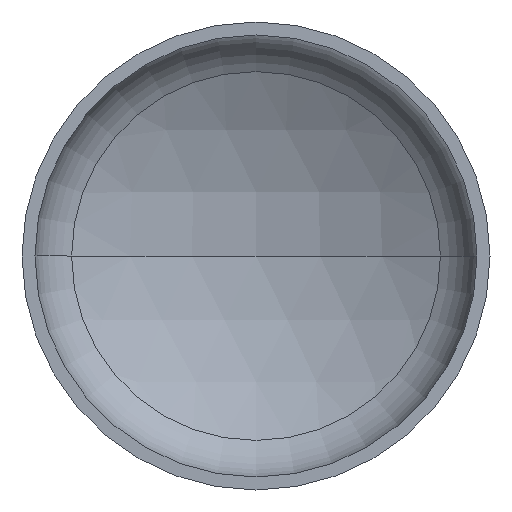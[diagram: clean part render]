
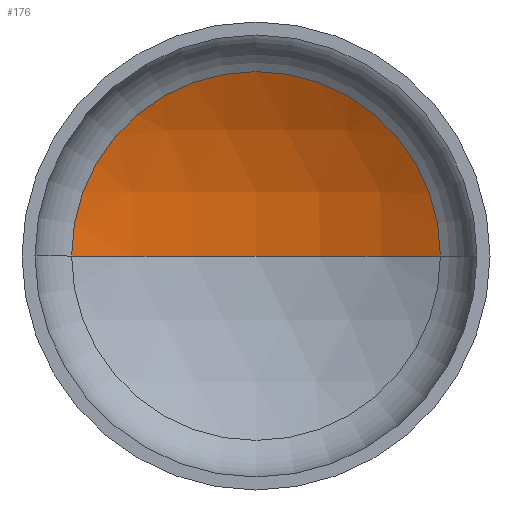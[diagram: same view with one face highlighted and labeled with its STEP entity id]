
A CAD part, front view. The second image highlights one B-rep face of the part: STEP entity #176.
In plain terms, the highlighted spherical face has radius 2880 mm.
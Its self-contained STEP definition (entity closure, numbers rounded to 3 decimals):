
#1 = VERTEX_POINT ( 'NONE', #249 ) ;
#7 = ORIENTED_EDGE ( 'NONE', *, *, #356, .T. ) ;
#10 = AXIS2_PLACEMENT_3D ( 'NONE', #336, #124, #141 ) ;
#16 = EDGE_LOOP ( 'NONE', ( #21, #7, #95 ) ) ;
#21 = ORIENTED_EDGE ( 'NONE', *, *, #277, .F. ) ;
#22 = VERTEX_POINT ( 'NONE', #278 ) ;
#24 = AXIS2_PLACEMENT_3D ( 'NONE', #263, #381, #299 ) ;
#47 = CARTESIAN_POINT ( 'NONE',  ( 0., -1923.512, 0. ) ) ;
#88 = AXIS2_PLACEMENT_3D ( 'NONE', #47, #179, #181 ) ;
#95 = ORIENTED_EDGE ( 'NONE', *, *, #353, .T. ) ;
#103 = AXIS2_PLACEMENT_3D ( 'NONE', #205, #287, #385 ) ;
#124 = DIRECTION ( 'NONE',  ( 0., 0., -1. ) ) ;
#141 = DIRECTION ( 'NONE',  ( -1., 0., 0. ) ) ;
#176 = ADVANCED_FACE ( 'NONE', ( #394 ), #267, .F. ) ;
#179 = DIRECTION ( 'NONE',  ( 0., 0., 1. ) ) ;
#181 = DIRECTION ( 'NONE',  ( 1., 0., 0. ) ) ;
#182 = CIRCLE ( 'NONE', #24, 1418.323 ) ;
#198 = CARTESIAN_POINT ( 'NONE',  ( -1418.323, 583.032, 0. ) ) ;
#205 = CARTESIAN_POINT ( 'NONE',  ( 0., -1923.512, 0. ) ) ;
#237 = VERTEX_POINT ( 'NONE', #198 ) ;
#241 = CIRCLE ( 'NONE', #10, 2880. ) ;
#249 = CARTESIAN_POINT ( 'NONE',  ( 0., 956.488, 0. ) ) ;
#263 = CARTESIAN_POINT ( 'NONE',  ( 0., 583.032, 0. ) ) ;
#267 = SPHERICAL_SURFACE ( 'NONE', #103, 2880. ) ;
#277 = EDGE_CURVE ( 'NONE', #1, #237, #389, .T. ) ;
#278 = CARTESIAN_POINT ( 'NONE',  ( 1418.323, 583.032, 0. ) ) ;
#287 = DIRECTION ( 'NONE',  ( 0., 0., -1. ) ) ;
#299 = DIRECTION ( 'NONE',  ( 1., 0., 0. ) ) ;
#336 = CARTESIAN_POINT ( 'NONE',  ( 0., -1923.512, 0. ) ) ;
#353 = EDGE_CURVE ( 'NONE', #22, #237, #182, .T. ) ;
#356 = EDGE_CURVE ( 'NONE', #1, #22, #241, .T. ) ;
#381 = DIRECTION ( 'NONE',  ( 0., -1., 0. ) ) ;
#385 = DIRECTION ( 'NONE',  ( -1., 0., 0. ) ) ;
#389 = CIRCLE ( 'NONE', #88, 2880. ) ;
#394 = FACE_OUTER_BOUND ( 'NONE', #16, .T. ) ;
